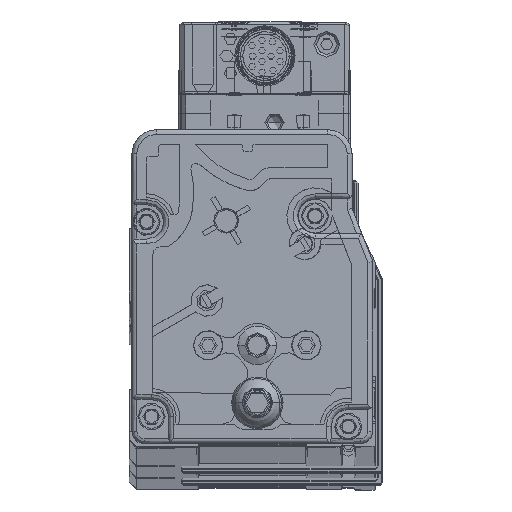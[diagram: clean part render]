
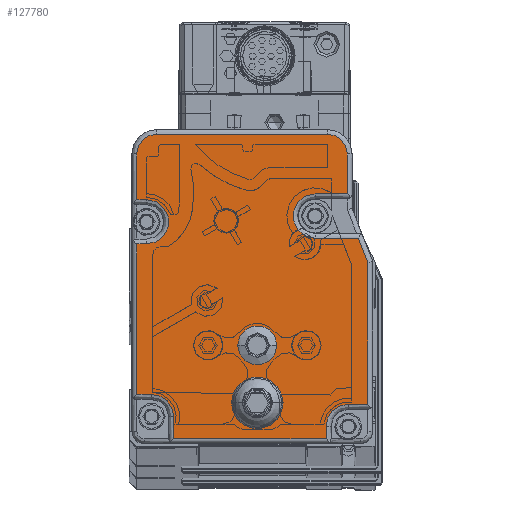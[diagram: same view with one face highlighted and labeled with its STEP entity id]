
A CAD part, top view. The second image highlights one B-rep face of the part: STEP entity #127780.
In plain terms, the highlighted planar face has unit normal (0, 0, 1).
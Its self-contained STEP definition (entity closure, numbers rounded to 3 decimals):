
#125670=CARTESIAN_POINT('',(-20.265,1.758,
3372.39));
#125680=DIRECTION('',(0.,0.,-1.));
#125690=DIRECTION('',(-1.,0.,0.));
#125700=AXIS2_PLACEMENT_3D('',#125670,#125680,#125690);
#125710=PLANE('',#125700);
#125720=CARTESIAN_POINT('',(-44.056,10.421,
3372.39));
#125730=DIRECTION('',(0.,0.,-1.));
#125740=DIRECTION('',(-1.,0.,0.));
#125750=AXIS2_PLACEMENT_3D('',#125720,#125730,#125740);
#125760=CIRCLE('',#125750,5.);
#125770=CARTESIAN_POINT('',(-49.056,10.421,
3372.39));
#125780=VERTEX_POINT('',#125770);
#125790=CARTESIAN_POINT('',(-39.056,10.421,
3372.39));
#125800=VERTEX_POINT('',#125790);
#125810=EDGE_CURVE('',#125780,#125800,#125760,.T.);
#125820=ORIENTED_EDGE('',*,*,#125810,.T.);
#125830=EDGE_CURVE('',#125800,#125780,#125760,.T.);
#125840=ORIENTED_EDGE('',*,*,#125830,.T.);
#125850=EDGE_LOOP('',(#125840,#125820));
#125860=FACE_BOUND('',#125850,.T.);
#125870=CARTESIAN_POINT('',(-44.059,22.124,
3372.39));
#125880=DIRECTION('',(0.,0.,1.));
#125890=DIRECTION('',(-1.,0.,0.));
#125900=AXIS2_PLACEMENT_3D('',#125870,#125880,#125890);
#125910=CIRCLE('',#125900,4.);
#125920=CARTESIAN_POINT('',(-40.059,22.124,
3372.39));
#125930=VERTEX_POINT('',#125920);
#125940=CARTESIAN_POINT('',(-48.059,22.124,
3372.39));
#125950=VERTEX_POINT('',#125940);
#125960=EDGE_CURVE('',#125930,#125950,#125910,.T.);
#125970=ORIENTED_EDGE('',*,*,#125960,.F.);
#125980=EDGE_CURVE('',#125950,#125930,#125910,.T.);
#125990=ORIENTED_EDGE('',*,*,#125980,.F.);
#126000=EDGE_LOOP('',(#125990,#125970));
#126010=FACE_BOUND('',#126000,.T.);
#126020=CARTESIAN_POINT('',(-61.059,2.124,
3372.39));
#126030=DIRECTION('',(0.,-1.,0.));
#126040=VECTOR('',#126030,1.);
#126050=LINE('',#126020,#126040);
#126060=CARTESIAN_POINT('',(-61.059,7.624,
3372.39));
#126070=VERTEX_POINT('',#126060);
#126080=CARTESIAN_POINT('',(-61.059,3.124,
3372.39));
#126090=VERTEX_POINT('',#126080);
#126100=EDGE_CURVE('',#126070,#126090,#126050,.T.);
#126110=ORIENTED_EDGE('',*,*,#126100,.T.);
#126120=CARTESIAN_POINT('',(-65.559,7.624,
3372.39));
#126130=DIRECTION('',(0.,0.,-1.));
#126140=DIRECTION('',(-1.,0.,0.));
#126150=AXIS2_PLACEMENT_3D('',#126120,#126130,#126140);
#126160=CIRCLE('',#126150,4.5);
#126170=CARTESIAN_POINT('',(-65.559,12.124,
3372.39));
#126180=VERTEX_POINT('',#126170);
#126190=EDGE_CURVE('',#126180,#126070,#126160,.T.);
#126200=ORIENTED_EDGE('',*,*,#126190,.T.);
#126210=CARTESIAN_POINT('',(-20.559,12.124,
3372.39));
#126220=DIRECTION('',(1.,0.,0.));
#126230=VECTOR('',#126220,1.);
#126240=LINE('',#126210,#126230);
#126250=CARTESIAN_POINT('',(-68.559,12.124,
3372.39));
#126260=VERTEX_POINT('',#126250);
#126270=EDGE_CURVE('',#126260,#126180,#126240,.T.);
#126280=ORIENTED_EDGE('',*,*,#126270,.T.);
#126290=CARTESIAN_POINT('',(-68.559,2.124,
3372.39));
#126300=DIRECTION('',(0.,-1.,0.));
#126310=VECTOR('',#126300,1.);
#126320=LINE('',#126290,#126310);
#126330=CARTESIAN_POINT('',(-68.559,42.727,
3372.39));
#126340=VERTEX_POINT('',#126330);
#126350=EDGE_CURVE('',#126340,#126260,#126320,.T.);
#126360=ORIENTED_EDGE('',*,*,#126350,.T.);
#126370=CARTESIAN_POINT('',(-20.559,42.727,
3372.39));
#126380=DIRECTION('',(-1.,0.,0.));
#126390=VECTOR('',#126380,1.);
#126400=LINE('',#126370,#126390);
#126410=CARTESIAN_POINT('',(-66.559,42.727,
3372.39));
#126420=VERTEX_POINT('',#126410);
#126430=EDGE_CURVE('',#126420,#126340,#126400,.T.);
#126440=ORIENTED_EDGE('',*,*,#126430,.T.);
#126450=CARTESIAN_POINT('',(-66.559,47.227,
3372.39));
#126460=DIRECTION('',(0.,0.,-1.));
#126470=DIRECTION('',(-1.,0.,0.));
#126480=AXIS2_PLACEMENT_3D('',#126450,#126460,#126470);
#126490=CIRCLE('',#126480,4.5);
#126500=CARTESIAN_POINT('',(-66.559,51.727,
3372.39));
#126510=VERTEX_POINT('',#126500);
#126520=EDGE_CURVE('',#126510,#126420,#126490,.T.);
#126530=ORIENTED_EDGE('',*,*,#126520,.T.);
#126540=CARTESIAN_POINT('',(-20.559,51.727,
3372.39));
#126550=DIRECTION('',(1.,0.,0.));
#126560=VECTOR('',#126550,1.);
#126570=LINE('',#126540,#126560);
#126580=CARTESIAN_POINT('',(-68.559,51.727,
3372.39));
#126590=VERTEX_POINT('',#126580);
#126600=EDGE_CURVE('',#126590,#126510,#126570,.T.);
#126610=ORIENTED_EDGE('',*,*,#126600,.T.);
#126620=CARTESIAN_POINT('',(-68.559,2.124,
3372.39));
#126630=DIRECTION('',(0.,-1.,0.));
#126640=VECTOR('',#126630,1.);
#126650=LINE('',#126620,#126640);
#126660=CARTESIAN_POINT('',(-68.559,61.024,
3372.39));
#126670=VERTEX_POINT('',#126660);
#126680=EDGE_CURVE('',#126670,#126590,#126650,.T.);
#126690=ORIENTED_EDGE('',*,*,#126680,.T.);
#126700=CARTESIAN_POINT('',(-64.559,61.024,
3372.39));
#126710=DIRECTION('',(0.,0.,1.));
#126720=DIRECTION('',(1.,0.,0.));
#126730=AXIS2_PLACEMENT_3D('',#126700,#126710,#126720);
#126740=CIRCLE('',#126730,4.);
#126750=CARTESIAN_POINT('',(-64.559,65.024,
3372.39));
#126760=VERTEX_POINT('',#126750);
#126770=EDGE_CURVE('',#126760,#126670,#126740,.T.);
#126780=ORIENTED_EDGE('',*,*,#126770,.T.);
#126790=CARTESIAN_POINT('',(-20.559,65.024,
3372.39));
#126800=DIRECTION('',(-1.,0.,0.));
#126810=VECTOR('',#126800,1.);
#126820=LINE('',#126790,#126810);
#126830=CARTESIAN_POINT('',(-29.759,65.024,
3372.39));
#126840=VERTEX_POINT('',#126830);
#126850=EDGE_CURVE('',#126840,#126760,#126820,.T.);
#126860=ORIENTED_EDGE('',*,*,#126850,.T.);
#126870=CARTESIAN_POINT('',(-29.759,61.024,
3372.39));
#126880=DIRECTION('',(0.,0.,1.));
#126890=DIRECTION('',(1.,0.,0.));
#126900=AXIS2_PLACEMENT_3D('',#126870,#126880,#126890);
#126910=CIRCLE('',#126900,4.);
#126920=CARTESIAN_POINT('',(-25.759,61.024,
3372.39));
#126930=VERTEX_POINT('',#126920);
#126940=EDGE_CURVE('',#126930,#126840,#126910,.T.);
#126950=ORIENTED_EDGE('',*,*,#126940,.T.);
#126960=CARTESIAN_POINT('',(-25.759,2.124,
3372.39));
#126970=DIRECTION('',(0.,1.,0.));
#126980=VECTOR('',#126970,1.);
#126990=LINE('',#126960,#126980);
#127000=CARTESIAN_POINT('',(-25.759,52.924,
3372.39));
#127010=VERTEX_POINT('',#127000);
#127020=EDGE_CURVE('',#127010,#126930,#126990,.T.);
#127030=ORIENTED_EDGE('',*,*,#127020,.T.);
#127040=CARTESIAN_POINT('',(-20.559,52.924,
3372.39));
#127050=DIRECTION('',(-1.,0.,0.));
#127060=VECTOR('',#127050,1.);
#127070=LINE('',#127040,#127060);
#127080=CARTESIAN_POINT('',(-32.309,52.924,
3372.39));
#127090=VERTEX_POINT('',#127080);
#127100=EDGE_CURVE('',#127010,#127090,#127070,.T.);
#127110=ORIENTED_EDGE('',*,*,#127100,.F.);
#127120=CARTESIAN_POINT('',(-32.309,48.424,
3372.39));
#127130=DIRECTION('',(0.,0.,-1.));
#127140=DIRECTION('',(-1.,0.,0.));
#127150=AXIS2_PLACEMENT_3D('',#127120,#127130,#127140);
#127160=CIRCLE('',#127150,4.5);
#127170=CARTESIAN_POINT('',(-32.309,43.924,
3372.39));
#127180=VERTEX_POINT('',#127170);
#127190=EDGE_CURVE('',#127180,#127090,#127160,.T.);
#127200=ORIENTED_EDGE('',*,*,#127190,.T.);
#127210=CARTESIAN_POINT('',(-20.559,43.924,
3372.39));
#127220=DIRECTION('',(-1.,0.,0.));
#127230=VECTOR('',#127220,1.);
#127240=LINE('',#127210,#127230);
#127250=CARTESIAN_POINT('',(-23.499,43.924,
3372.39));
#127260=VERTEX_POINT('',#127250);
#127270=EDGE_CURVE('',#127260,#127180,#127240,.T.);
#127280=ORIENTED_EDGE('',*,*,#127270,.T.);
#127290=CARTESIAN_POINT('',(-7.243,2.124,
3372.39));
#127300=DIRECTION('',(0.362,-0.932,0.));
#127310=VECTOR('',#127300,1.);
#127320=LINE('',#127290,#127310);
#127330=CARTESIAN_POINT('',(-21.559,38.937,
3372.39));
#127340=VERTEX_POINT('',#127330);
#127350=EDGE_CURVE('',#127260,#127340,#127320,.T.);
#127360=ORIENTED_EDGE('',*,*,#127350,.F.);
#127370=CARTESIAN_POINT('',(-21.559,2.124,
3372.39));
#127380=DIRECTION('',(0.,-1.,0.));
#127390=VECTOR('',#127380,1.);
#127400=LINE('',#127370,#127390);
#127410=CARTESIAN_POINT('',(-21.559,10.124,
3372.39));
#127420=VERTEX_POINT('',#127410);
#127430=EDGE_CURVE('',#127340,#127420,#127400,.T.);
#127440=ORIENTED_EDGE('',*,*,#127430,.F.);
#127450=CARTESIAN_POINT('',(-20.559,10.124,
3372.39));
#127460=DIRECTION('',(1.,0.,0.));
#127470=VECTOR('',#127460,1.);
#127480=LINE('',#127450,#127470);
#127490=CARTESIAN_POINT('',(-25.559,10.124,
3372.39));
#127500=VERTEX_POINT('',#127490);
#127510=EDGE_CURVE('',#127500,#127420,#127480,.T.);
#127520=ORIENTED_EDGE('',*,*,#127510,.T.);
#127530=CARTESIAN_POINT('',(-25.559,5.624,
3372.39));
#127540=DIRECTION('',(0.,0.,-1.));
#127550=DIRECTION('',(-1.,0.,0.));
#127560=AXIS2_PLACEMENT_3D('',#127530,#127540,#127550);
#127570=CIRCLE('',#127560,4.5);
#127580=CARTESIAN_POINT('',(-30.059,5.624,
3372.39));
#127590=VERTEX_POINT('',#127580);
#127600=EDGE_CURVE('',#127590,#127500,#127570,.T.);
#127610=ORIENTED_EDGE('',*,*,#127600,.T.);
#127620=CARTESIAN_POINT('',(-30.059,2.124,
3372.39));
#127630=DIRECTION('',(0.,1.,0.));
#127640=VECTOR('',#127630,1.);
#127650=LINE('',#127620,#127640);
#127660=CARTESIAN_POINT('',(-30.059,3.124,
3372.39));
#127670=VERTEX_POINT('',#127660);
#127680=EDGE_CURVE('',#127670,#127590,#127650,.T.);
#127690=ORIENTED_EDGE('',*,*,#127680,.T.);
#127700=CARTESIAN_POINT('',(-20.559,3.124,
3372.39));
#127710=DIRECTION('',(-1.,0.,0.));
#127720=VECTOR('',#127710,1.);
#127730=LINE('',#127700,#127720);
#127740=EDGE_CURVE('',#127670,#126090,#127730,.T.);
#127750=ORIENTED_EDGE('',*,*,#127740,.F.);
#127760=EDGE_LOOP('',(#127750,#127690,#127610,#127520,#127440,#127360,
#127280,#127200,#127110,#127030,#126950,#126860,#126780,#126690,#126610,
#126530,#126440,#126360,#126280,#126200,#126110));
#127770=FACE_OUTER_BOUND('',#127760,.T.);
#127780=ADVANCED_FACE('',(#125860,#126010,#127770),#125710,.F.);
